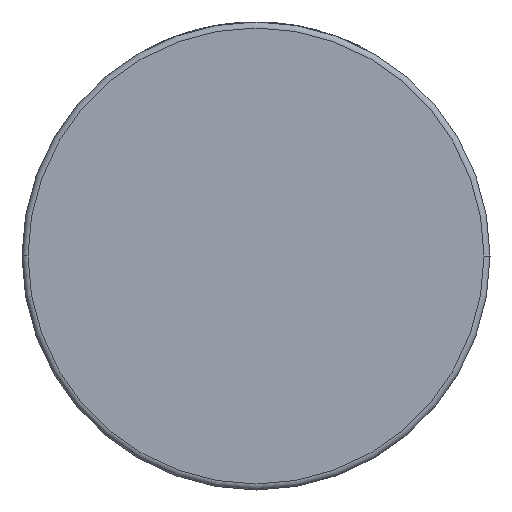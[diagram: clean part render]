
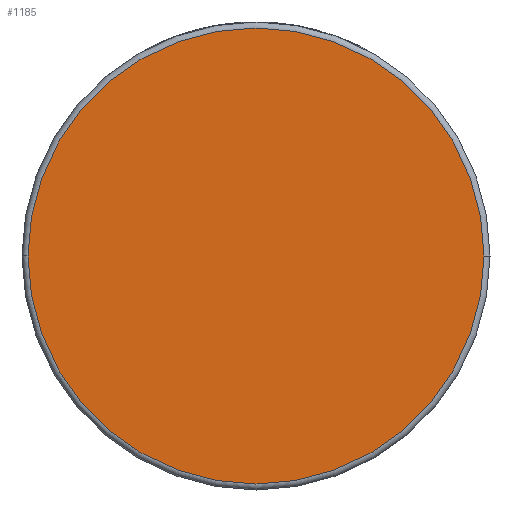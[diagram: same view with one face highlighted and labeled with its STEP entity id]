
A CAD part, front view. The second image highlights one B-rep face of the part: STEP entity #1185.
In plain terms, the highlighted planar face has unit normal (0, -1, 0).
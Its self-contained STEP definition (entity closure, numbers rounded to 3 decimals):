
#438 = AXIS2_PLACEMENT_3D ( 'NONE', #2053, #2373, #1722 ) ;
#463 = CIRCLE ( 'NONE', #3036, 38. ) ;
#593 = VERTEX_POINT ( 'NONE', #3119 ) ;
#597 = EDGE_CURVE ( 'NONE', #593, #4044, #2537, .T. ) ;
#813 = CARTESIAN_POINT ( 'NONE',  ( 0., -26.5, 0. ) ) ;
#964 = CARTESIAN_POINT ( 'NONE',  ( -38., -26.5, 0. ) ) ;
#1036 = PLANE ( 'NONE',  #438 ) ;
#1185 = ADVANCED_FACE ( 'NONE', ( #2353 ), #1036, .T. ) ;
#1450 = ORIENTED_EDGE ( 'NONE', *, *, #3131, .T. ) ;
#1658 = ORIENTED_EDGE ( 'NONE', *, *, #597, .T. ) ;
#1722 = DIRECTION ( 'NONE',  ( 1., 0., 0. ) ) ;
#2053 = CARTESIAN_POINT ( 'NONE',  ( 39., -26.5, 0. ) ) ;
#2180 = CARTESIAN_POINT ( 'NONE',  ( 0., -26.5, 0. ) ) ;
#2259 = DIRECTION ( 'NONE',  ( 0., -1., 0. ) ) ;
#2353 = FACE_OUTER_BOUND ( 'NONE', #3679, .T. ) ;
#2373 = DIRECTION ( 'NONE',  ( 0., -1., 0. ) ) ;
#2457 = DIRECTION ( 'NONE',  ( 1., 0., 0. ) ) ;
#2537 = CIRCLE ( 'NONE', #3793, 38. ) ;
#2806 = DIRECTION ( 'NONE',  ( 0., -1., 0. ) ) ;
#2850 = DIRECTION ( 'NONE',  ( 1., 0., 0. ) ) ;
#3036 = AXIS2_PLACEMENT_3D ( 'NONE', #2180, #2259, #2850 ) ;
#3119 = CARTESIAN_POINT ( 'NONE',  ( 38., -26.5, 0. ) ) ;
#3131 = EDGE_CURVE ( 'NONE', #4044, #593, #463, .T. ) ;
#3679 = EDGE_LOOP ( 'NONE', ( #1658, #1450 ) ) ;
#3793 = AXIS2_PLACEMENT_3D ( 'NONE', #813, #2806, #2457 ) ;
#4044 = VERTEX_POINT ( 'NONE', #964 ) ;
